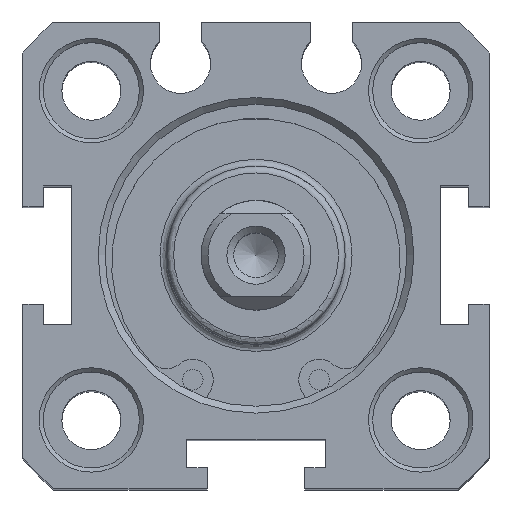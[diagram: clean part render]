
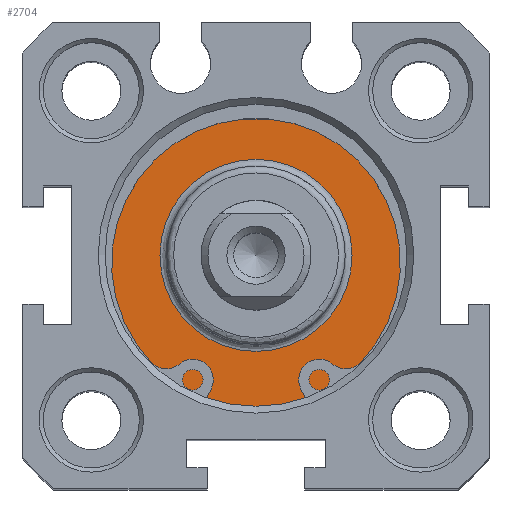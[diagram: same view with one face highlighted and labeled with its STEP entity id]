
A CAD part, top view. The second image highlights one B-rep face of the part: STEP entity #2704.
In plain terms, the highlighted planar face has unit normal (0, 0, 1).
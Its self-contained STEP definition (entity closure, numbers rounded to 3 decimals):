
#2653=CARTESIAN_POINT('',(0.24,8.683,56.8));
#2654=VERTEX_POINT('',#2653);
#2655=CARTESIAN_POINT('',(0.24,1.683,56.8));
#2656=DIRECTION('',(0.0,0.0,1.0));
#2657=DIRECTION('',(0.0,-1.0,0.0));
#2658=AXIS2_PLACEMENT_3D('',#2655,#2656,#2657);
#2659=CIRCLE('',#2658,7.);
#2660=EDGE_CURVE('',#2654,#2654,#2659,.T.);
#2685=CARTESIAN_POINT('',(0.24,10.433,56.8));
#2686=DIRECTION('',(0.0,0.0,1.0));
#2687=DIRECTION('',(1.0,0.0,0.0));
#2688=AXIS2_PLACEMENT_3D('',#2685,#2686,#2687);
#2689=PLANE('',#2688);
#2690=CARTESIAN_POINT('',(0.24,12.683,56.8));
#2691=VERTEX_POINT('',#2690);
#2692=CARTESIAN_POINT('',(0.24,1.683,56.8));
#2693=DIRECTION('',(0.0,0.0,-1.0));
#2694=DIRECTION('',(0.0,1.0,0.0));
#2695=AXIS2_PLACEMENT_3D('',#2692,#2693,#2694);
#2696=CIRCLE('',#2695,11.);
#2697=EDGE_CURVE('',#2691,#2691,#2696,.T.);
#2698=ORIENTED_EDGE('',*,*,#2697,.F.);
#2699=EDGE_LOOP('',(#2698));
#2700=FACE_OUTER_BOUND('',#2699,.T.);
#2701=ORIENTED_EDGE('',*,*,#2660,.F.);
#2702=EDGE_LOOP('',(#2701));
#2703=FACE_BOUND('',#2702,.T.);
#2704=ADVANCED_FACE('',(#2700,#2703),#2689,.T.);
